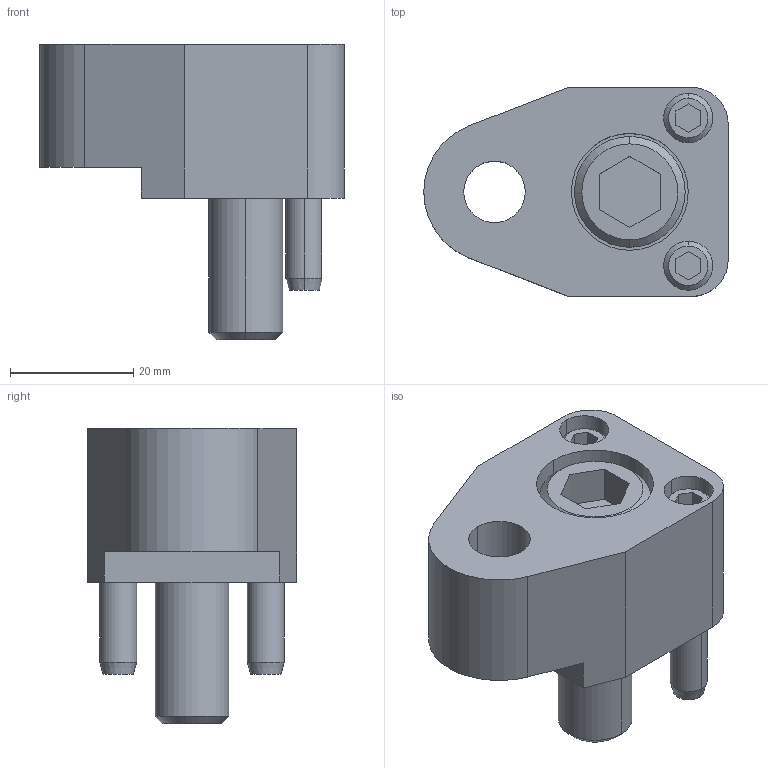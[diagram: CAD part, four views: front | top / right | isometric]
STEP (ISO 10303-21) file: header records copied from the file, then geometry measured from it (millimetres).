
FILE_DESCRIPTION(/* description */ (''),/* implementation_level */ '2;1');
FILE_NAME(/* name */ '3d_spfrs10_02791_r00.stp',/* time_stamp */ '2011-01-10T14:10:11+09:00',/* author */ ('MISUMI'),/* organization */ (''),/* preprocessor_version */ 'ST-DEVELOPER v11',/* originating_system */ 'UGS - NX 5.0',/* authorisation */ '');
FILE_SCHEMA (('CONFIG_CONTROL_DESIGN'));
Length unit declared in the file: millimetre
Products named in the file (1): 3d_spfrs10_02791_r00
Bounding box: 49.5 x 34 x 48 mm (x, y, z)
Volume: 33691.7 mm3; surface area: 13565.3 mm2
Topology: 6 solids, 6 shells, 111 faces, 246 edges, 157 vertices
Faces by surface type: plane 50, cylinder 39, cone 22
Entity records: 3208 total; most frequent: CARTESIAN_POINT 568, DIRECTION 566, ORIENTED_EDGE 492, EDGE_CURVE 246, AXIS2_PLACEMENT_3D 213, VERTEX_POINT 157, LINE 140, VECTOR 140
